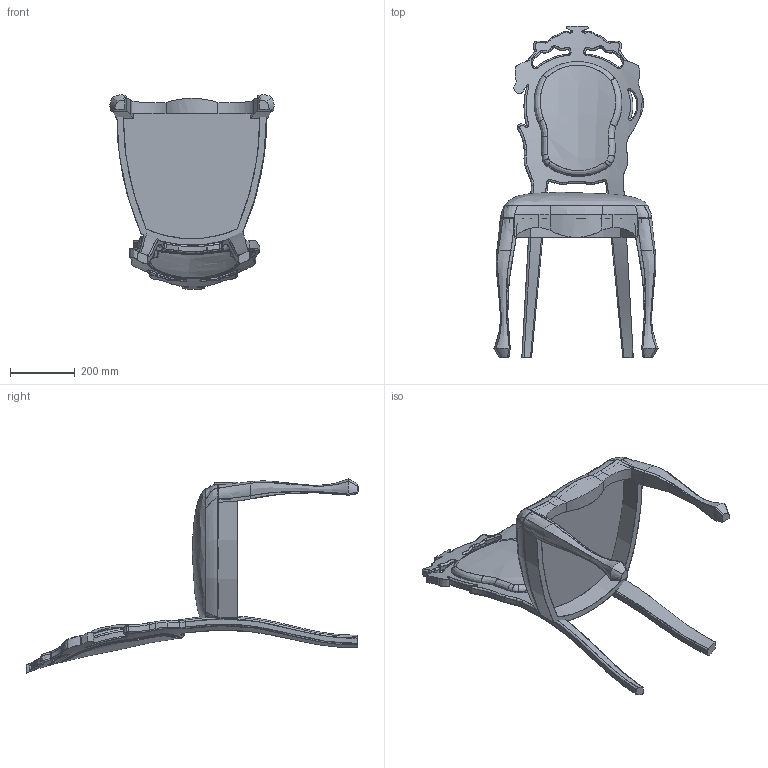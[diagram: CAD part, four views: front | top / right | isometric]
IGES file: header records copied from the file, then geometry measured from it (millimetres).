
Start section: SolidWorks IGES file using analytic representation for surfaces
Global section: file name: P:\Product Development\01_PRODUCTS\SE_Seaters\18_Smoke dining chair\02_Concept\3D\Smoked Dining.IGS; native system: SolidWorks 2010; preprocessor: SolidWorks 2010; author: Sonneveld; date: 100208.120002; units: millimetre
Bounding box: 505.42 x 1022.56 x 598.76 mm (x, y, z)
Surface area: 1337420.5 mm2 (no closed solid volume)
Topology: 0 solids, 0 shells, 827 faces, 20883 edges, 20881 vertices
Faces by surface type: bspline 706, revolution 121
